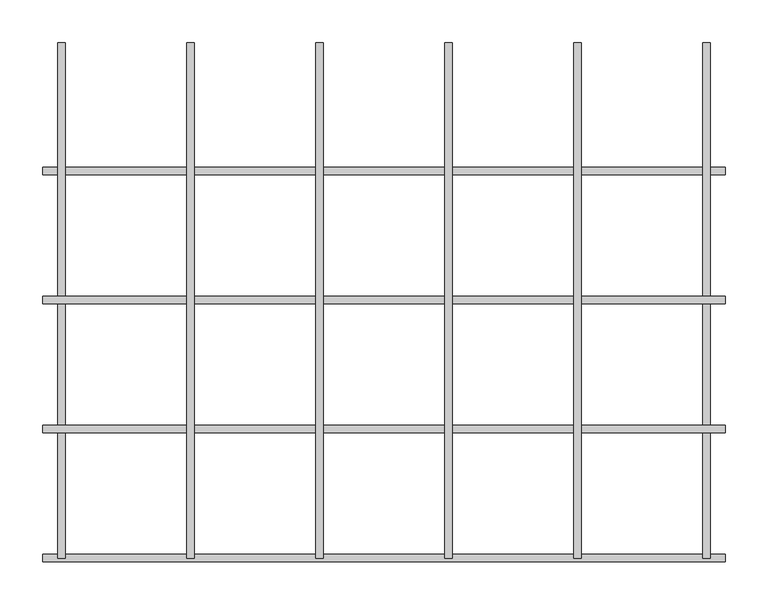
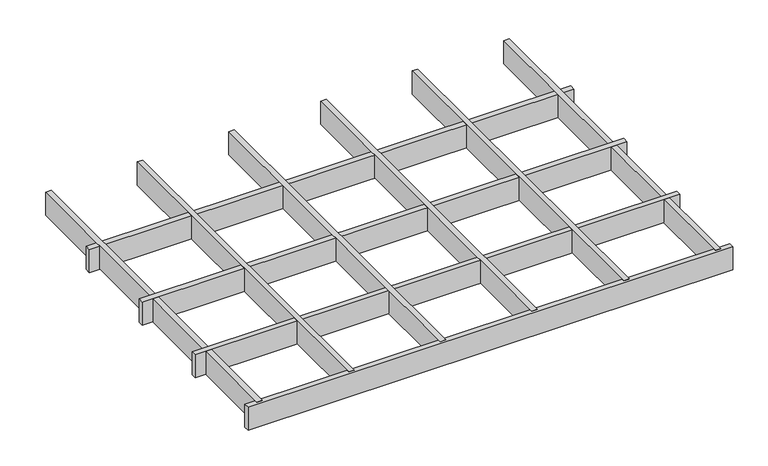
"""IFC4 building model written with IfcOpenShell, lengths in millimetres: proxy geometry, durlum_GEO_panel : durlum_GEO_9_length_cut."""

import ifcopenshell
import ifcopenshell.guid

model = None  # the IFC model being written
_history = None  # IfcOwnerHistory: only IFC2X3 demands one
_inside = {}  # id of a spatial element -> (the spatial element, [elements in it])
_under = {}  # id of a project, library or spatial element -> (it, [spatial elements below it])
_declared = {}  # id of a project -> (the project, [libraries it declares])
_typed = {}  # id of a type object -> (the type object, [elements of that type])
_made_of = {}  # id of a material, layer set ... -> (it, [elements and type objects made of it])


def new_model(schema):
    """Start an empty IFC model of exactly this schema.

    Asked for "IFC4X3", IfcOpenShell would pick the latest addendum, in which some entities
    have other attributes; the version numbers below select the first issue.
    IFC2X3 requires an IfcOwnerHistory on every rooted entity: one is made here for all.
    """
    global model, _history
    if schema == "IFC4X3":
        model = ifcopenshell.file(schema_version=(4, 3, 0, 0))
    else:
        model = ifcopenshell.file(schema=schema)
    _inside.clear()
    _under.clear()
    _declared.clear()
    _typed.clear()
    _made_of.clear()
    _history = None
    if model.schema == "IFC2X3":
        org = make("IfcOrganization", Name="unknown")
        user = make(
            "IfcPersonAndOrganization",
            ThePerson=make("IfcPerson", FamilyName="unknown"),
            TheOrganization=org,
        )
        app = make(
            "IfcApplication",
            ApplicationDeveloper=org,
            Version="unknown",
            ApplicationFullName="unknown",
            ApplicationIdentifier="unknown",
        )
        _history = make(
            "IfcOwnerHistory",
            OwningUser=user,
            OwningApplication=app,
            ChangeAction="ADDED",
            CreationDate=0,
        )
    return model


def make(cls, **values):
    """One entity of the class cls with the attributes given. An attribute that is None is left unset."""
    return model.create_entity(
        cls, **{name: value for name, value in values.items() if value is not None}
    )


def rooted(cls, **values):
    """An entity with a GlobalId (a new one), such as an element, a storey or a relation."""
    return make(cls, GlobalId=ifcopenshell.guid.new(), OwnerHistory=_history, **values)


def si_unit(unit_type, name, prefix=None):
    """IfcSIUnit, for example si_unit("LENGTHUNIT", "METRE", prefix="MILLI")."""
    return make("IfcSIUnit", UnitType=unit_type, Prefix=prefix, Name=name)


def assignment(units):
    """IfcUnitAssignment: the units of a project."""
    return None if units is None else make("IfcUnitAssignment", Units=units)


def point(xyz):
    """IfcCartesianPoint."""
    return None if xyz is None else make("IfcCartesianPoint", Coordinates=xyz)


def direction(xyz):
    """IfcDirection."""
    return None if xyz is None else make("IfcDirection", DirectionRatios=xyz)


def frame(location, z_axis=None, x_axis=None):
    """IfcAxis2Placement3D, a coordinate frame: its origin and axes. An axis left out is left unset."""
    return make(
        "IfcAxis2Placement3D",
        Location=point(location),
        Axis=direction(z_axis),
        RefDirection=direction(x_axis),
    )


def origin():
    """The frame at (0, 0, 0) with its axes left unset."""
    return frame((0.0, 0.0, 0.0))


def origin_with_axes():
    """The frame at (0, 0, 0) with the z axis (0, 0, 1) and the x axis (1, 0, 0) written out."""
    return frame((0.0, 0.0, 0.0), z_axis=(0.0, 0.0, 1.0), x_axis=(1.0, 0.0, 0.0))


def place(relative_to, where):
    """IfcLocalPlacement: puts the frame where relative to a parent placement (None: the world)."""
    return make(
        "IfcLocalPlacement", PlacementRelTo=relative_to, RelativePlacement=where
    )


def context(
    kind, dimensions, precision=None, world=None, true_north=None, identifier=None
):
    """IfcGeometricRepresentationContext, for example the 3D "Model" context."""
    return make(
        "IfcGeometricRepresentationContext",
        ContextIdentifier=identifier,
        ContextType=kind,
        CoordinateSpaceDimension=dimensions,
        Precision=precision,
        WorldCoordinateSystem=world,
        TrueNorth=true_north,
    )


def project(units=None, contexts=None):
    """IfcProject with its units and contexts."""
    return rooted(
        "IfcProject",
        Name="project",
        RepresentationContexts=contexts,
        UnitsInContext=assignment(units),
    )


def spatial(cls, under=None, at=None, **own):
    """A site, building, storey or space (cls), placed at a placement, below another one or the project."""
    s = rooted(cls, ObjectPlacement=at, **own)
    if under is not None:
        _under.setdefault(under.id(), (under, []))[1].append(s)
    return s


def polyline(points):
    """IfcPolyline through the points."""
    return make("IfcPolyline", Points=[point(p) for p in points])


def outline(outer, holes=None, kind="AREA"):
    """IfcArbitraryClosedProfileDef: a profile drawn as a closed curve; with holes, ...WithVoids."""
    if holes is None:
        return make("IfcArbitraryClosedProfileDef", ProfileType=kind, OuterCurve=outer)
    return make(
        "IfcArbitraryProfileDefWithVoids",
        ProfileType=kind,
        OuterCurve=outer,
        InnerCurves=holes,
    )


def extrude(swept, where, along, depth):
    """IfcExtrudedAreaSolid: the profile swept, set in the frame where, extruded along a direction by depth."""
    return make(
        "IfcExtrudedAreaSolid",
        SweptArea=swept,
        Position=where,
        ExtrudedDirection=direction(along),
        Depth=depth,
    )


def shape(context_of_items, identifier, shape_type, items):
    """IfcShapeRepresentation: the items that make up one representation, for example the "Body"."""
    return make(
        "IfcShapeRepresentation",
        ContextOfItems=context_of_items,
        RepresentationIdentifier=identifier,
        RepresentationType=shape_type,
        Items=items,
    )


def source(mapping_origin, context_of_items, identifier, shape_type, items):
    """IfcRepresentationMap: a shape defined once, which mapped items show again and again."""
    return make(
        "IfcRepresentationMap",
        MappingOrigin=mapping_origin,
        MappedRepresentation=shape(context_of_items, identifier, shape_type, items),
    )


def transform(
    local_origin,
    x_axis=None,
    y_axis=None,
    z_axis=None,
    scale=None,
    scale2=None,
    scale3=None,
    uniform=True,
):
    """IfcCartesianTransformationOperator3D, or its non-uniform kind. x_axis, y_axis, z_axis: its Axis1, 2, 3."""
    if uniform:
        return make(
            "IfcCartesianTransformationOperator3D",
            Axis1=direction(x_axis),
            Axis2=direction(y_axis),
            LocalOrigin=point(local_origin),
            Scale=scale,
            Axis3=direction(z_axis),
        )
    return make(
        "IfcCartesianTransformationOperator3DnonUniform",
        Axis1=direction(x_axis),
        Axis2=direction(y_axis),
        LocalOrigin=point(local_origin),
        Scale=scale,
        Axis3=direction(z_axis),
        Scale2=scale2,
        Scale3=scale3,
    )


def mapped(mapping_source, mapping_target):
    """IfcMappedItem: shows the shape of a source again, moved by a transform."""
    return make(
        "IfcMappedItem", MappingSource=mapping_source, MappingTarget=mapping_target
    )


def made_of(thing, what):
    """Note that an element or type object is made of a material, layer set ...; save() writes the relation."""
    if what is not None:
        _made_of.setdefault(what.id(), (what, []))[1].append(thing)
    return thing


def element(
    cls,
    number,
    at=None,
    inside=None,
    cuts=None,
    type_object=None,
    material=None,
    context=None,
    identifier="Body",
    shape_type=None,
    held_by="IfcProductDefinitionShape",
    body=None,
    shapes=None,
    **own,
):
    """One element of the class cls, such as IfcWall. Its Tag is "e" and its number.

    at: its placement. inside: the storey or other place that contains it. cuts: it is an
    opening in that element (IfcRelVoidsElement). A single representation is given by context,
    identifier, shape_type and body (its items); several are given by shapes. held_by: the class
    of the entity that holds the representations. save() writes the other relations.
    """
    e = rooted(cls, Tag="e%d" % number, ObjectPlacement=at, **own)
    if body is not None:
        shapes = [shape(context, identifier, shape_type, body)]
    if shapes is not None:
        e.Representation = make(held_by, Representations=shapes)
    if inside is not None:
        _inside.setdefault(inside.id(), (inside, []))[1].append(e)
    if cuts is not None:
        rooted(
            "IfcRelVoidsElement", RelatingBuildingElement=cuts, RelatedOpeningElement=e
        )
    if type_object is not None:
        _typed.setdefault(type_object.id(), (type_object, []))[1].append(e)
    return made_of(e, material)


def aggregate(whole, parts):
    """IfcRelAggregates: a whole, such as a stair, and the parts it consists of."""
    return rooted("IfcRelAggregates", RelatingObject=whole, RelatedObjects=parts)


def save(model, path):
    """Write the relations noted so far, then the file.

    IfcRelAggregates (storeys below a building ...), IfcRelContainedInSpatialStructure (elements
    in a storey), IfcRelDefinesByType, IfcRelAssociatesMaterial and IfcRelDeclares: one each for
    every whole, place, type object, material and project.
    """
    for whole, parts in _under.values():
        aggregate(whole, parts)
    for where, things in _inside.values():
        rooted(
            "IfcRelContainedInSpatialStructure",
            RelatedElements=things,
            RelatingStructure=where,
        )
    for kind, things in _typed.values():
        rooted("IfcRelDefinesByType", RelatedObjects=things, RelatingType=kind)
    for what, things in _made_of.values():
        rooted("IfcRelAssociatesMaterial", RelatedObjects=things, RelatingMaterial=what)
    for by, libraries in _declared.values():
        rooted("IfcRelDeclares", RelatingContext=by, RelatedDefinitions=libraries)
    model.write(path)


def generic_models_6d0d0a9c(model_context):
    return source(origin(), model_context, "Body", "SweptSolid", [
        extrude(outline(polyline([(220.5, 299.5), (229.5, 299.5), (229.5, -299.5), (220.5, -299.5), (220.5, 299.5)])), origin_with_axes(), (0.0, 0.0, 1.0), 40.0),
        extrude(outline(polyline([(70.5, 299.5), (79.5, 299.5), (79.5, -299.5), (70.5, -299.5), (70.5, 299.5)])), origin_with_axes(), (0.0, 0.0, 1.0), 40.0),
        extrude(outline(polyline([(-79.5, 299.5), (-70.5, 299.5), (-70.5, -299.5), (-79.5, -299.5), (-79.5, 299.5)])), origin_with_axes(), (0.0, 0.0, 1.0), 40.0),
        extrude(outline(polyline([(-229.5, 299.5), (-220.5, 299.5), (-220.5, -299.5), (-229.5, -299.5), (-229.5, 299.5)])), origin_with_axes(), (0.0, 0.0, 1.0), 40.0),
        extrude(outline(polyline([(396.5628516, -145.0), (396.5628516, -154.0), (-396.5628516, -154.0), (-396.5628516, -145.0), (396.5628516, -145.0)])), origin_with_axes(), (0.0, 0.0, 1.0), 40.0),
        extrude(outline(polyline([(396.5628516, 5.0), (396.5628516, -4.0), (-396.5628516, -4.0), (-396.5628516, 5.0), (396.5628516, 5.0)])), origin_with_axes(), (0.0, 0.0, 1.0), 40.0),
        extrude(outline(polyline([(370.5, 299.5), (379.5, 299.5), (379.5, -299.5), (370.5, -299.5), (370.5, 299.5)])), origin_with_axes(), (0.0, 0.0, 1.0), 40.0),
        extrude(outline(polyline([(-379.5, 299.5), (-370.5, 299.5), (-370.5, -299.5), (-379.5, -299.5), (-379.5, 299.5)])), origin_with_axes(), (0.0, 0.0, 1.0), 40.0),
        extrude(outline(polyline([(396.5628516, -295.0), (396.5628516, -304.0), (-396.5628516, -304.0), (-396.5628516, -295.0), (396.5628516, -295.0)])), origin_with_axes(), (0.0, 0.0, 1.0), 40.0),
        extrude(outline(polyline([(396.5628516, 155.0), (396.5628516, 146.0), (-396.5628516, 146.0), (-396.5628516, 155.0), (396.5628516, 155.0)])), origin_with_axes(), (0.0, 0.0, 1.0), 40.0),
    ])


if __name__ == "__main__":
    model = new_model("IFC4")
    model_context = context("Model", 3, world=origin())
    ifc_project = project(units=[si_unit("LENGTHUNIT", "METRE", prefix="MILLI")], contexts=[model_context])
    site = spatial("IfcSite", under=ifc_project)
    building = spatial("IfcBuilding", under=site)
    placement = place(None, origin())
    generic_models_shape = generic_models_6d0d0a9c(model_context)
    element("IfcBuildingElementProxy", 1, Name="durlum_GEO_panel : durlum_GEO_9_length_cut", ObjectType="durlum_GEO_panel : durlum_GEO_9_length_cut", at=placement, inside=building, context=model_context, shape_type="MappedRepresentation", body=[
        mapped(generic_models_shape, transform((0.0, 0.0, 0.0), x_axis=(1.0, 0.0, 0.0), y_axis=(0.0, 1.0, 0.0), z_axis=(0.0, 0.0, 1.0))),
    ])
    save(model, "model.ifc")
